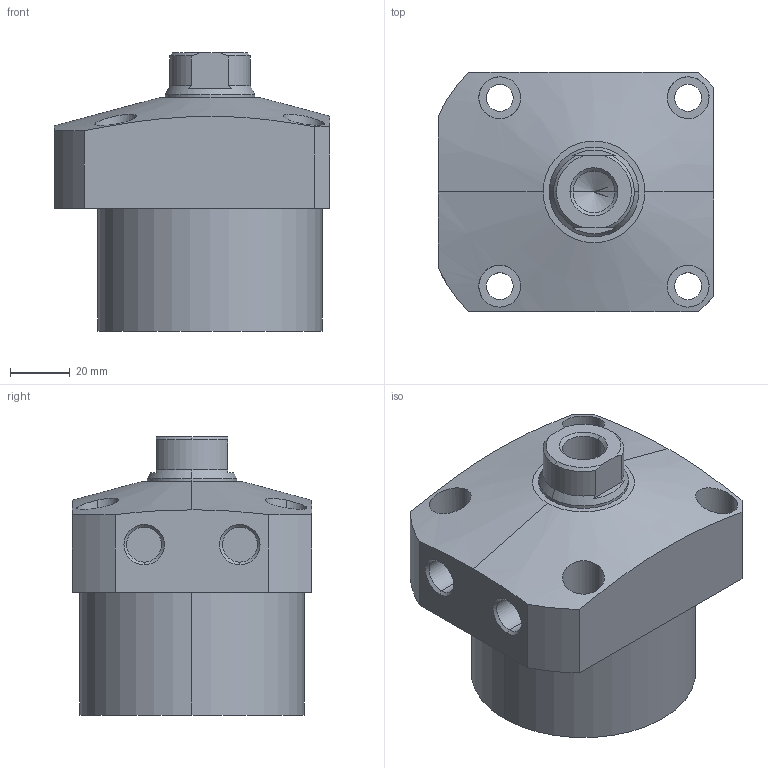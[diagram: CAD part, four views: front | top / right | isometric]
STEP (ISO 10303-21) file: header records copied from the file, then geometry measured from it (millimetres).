
FILE_DESCRIPTION (( 'STEP AP203' ), '1' );
FILE_NAME ('CLL-075CA-025.STEP', '2019-12-20T05:41:45', ( '' ), ( '' ), 'SwSTEP 2.0', 'SolidWorks 2015', '' );
FILE_SCHEMA (( 'CONFIG_CONTROL_DESIGN' ));
Length unit declared in the file: millimetre
Products named in the file (1): CLL-075CA-025
Bounding box: 92 x 80 x 93 mm (x, y, z)
Volume: 403830.7 mm3; surface area: 40936.2 mm2
Topology: 1 solids, 1 shells, 72 faces, 169 edges, 108 vertices
Faces by surface type: cylinder 35, plane 22, cone 15
Entity records: 2557 total; most frequent: CARTESIAN_POINT 792, DIRECTION 366, ORIENTED_EDGE 334, EDGE_CURVE 167, AXIS2_PLACEMENT_3D 150, VERTEX_POINT 108, EDGE_LOOP 91, CIRCLE 77
